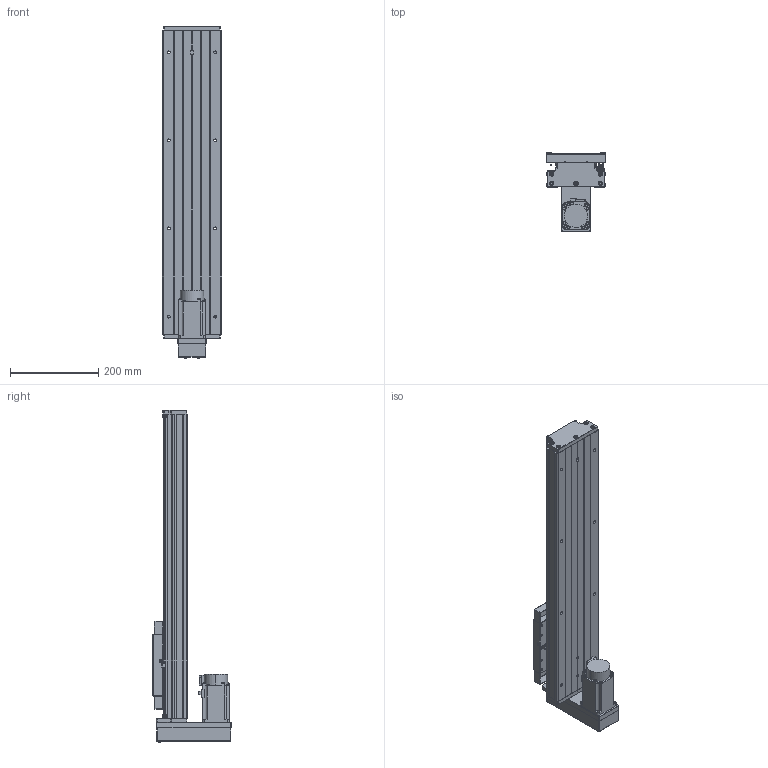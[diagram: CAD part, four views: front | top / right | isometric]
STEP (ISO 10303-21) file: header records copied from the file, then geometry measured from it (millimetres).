
FILE_DESCRIPTION (( 'STEP AP203' ), '1' );
FILE_NAME ('GTH14-450-BM-M40-C4.step', '2023-06-30T08:46:04', ( '微软用户' ), ( '微软中国' ), 'SwSTEP 2.0', 'SolidWorks 2020', '' );
FILE_SCHEMA (( 'CONFIG_CONTROL_DESIGN' ));
Length unit declared in the file: millimetre
Products named in the file (19): GTH14-033; GB1155-6X6; GTH14-031; GTH14-450-BM-M40-C4; GBT70.1 M5℅16; GBT 70.2-M3¡Á5_M3¡Á6; CTHA60-017; す晦芛蹟隊 M3℅5; GTH14-001_450; EE_SX911P_R; HG-KN43J-S100; GTH14-002_GTH14-002; CTHA60-016; GBT 70.2-M4¡Á35_M4¡Á35; GTH14-004; GBT 70.1-M3℅5; GTH14-015-2_CTHA86-015-2; GBT77-2000 M3×3; GTH14-005
Assembly tree (58 placements, depth 2):
  GTH14-450-BM-M40-C4
    GTH14-001_450
    GTH14-002_GTH14-002
    GTH14-004
    GTH14-005
    GB1155-6X6  x2
    GBT70.1 M5℅16  x10
    CTHA60-017  x3
    EE_SX911P_R  x3
    CTHA60-016  x2
    GBT 70.1-M3℅5  x6
    GBT77-2000 M3×3  x6
    GTH14-031
    GBT 70.2-M3¡Á5_M3¡Á6  x8
    す晦芛蹟隊 M3℅5  x6
    HG-KN43J-S100
    GBT 70.2-M4¡Á35_M4¡Á35  x4
    GTH14-015-2_CTHA86-015-2
    GTH14-033
Bounding box: 135 x 177.5 x 754.2 mm (x, y, z)
Volume: 4326541.8 mm3; surface area: 758062.6 mm2
Topology: 61 solids, 61 shells, 2443 faces, 5809 edges, 3578 vertices
Faces by surface type: plane 1305, cylinder 648, cone 314, torus 124, sphere 32, bspline 20
Entity records: 43850 total; most frequent: CARTESIAN_POINT 9807, DIRECTION 6429, ORIENTED_EDGE 6308, EDGE_CURVE 3154, AXIS2_PLACEMENT_3D 2192, VECTOR 2045, LINE 2045, VERTEX_POINT 1996
